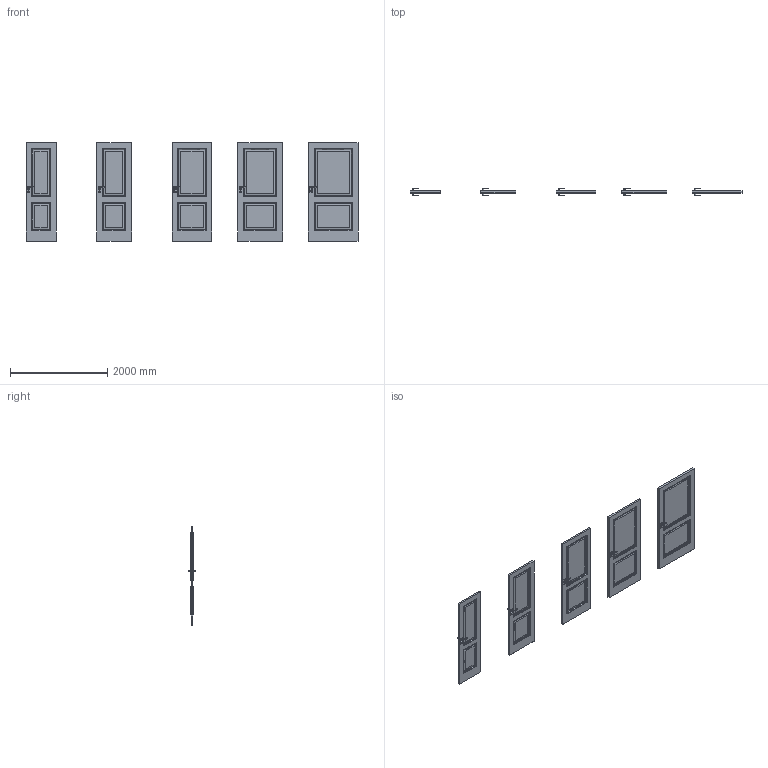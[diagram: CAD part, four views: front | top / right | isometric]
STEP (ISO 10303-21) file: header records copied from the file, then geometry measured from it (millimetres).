
FILE_DESCRIPTION(/* description */ (''),/* implementation_level */ '2;1');
FILE_NAME(/* name */ '049923_A_2-Skrzydło NOVA model 3.1_ polska norma _PN__ bezprzylgowe..stp',/* time_stamp */ '2024-11-05T12:00:45+01:00',/* author */ (''),/* organization */ (''),/* preprocessor_version */ 'ST-DEVELOPER v16',/* originating_system */ 'SIEMENS PLM Software NX 11.0',/* authorisation */ '');
FILE_SCHEMA (('AUTOMOTIVE_DESIGN { 1 0 10303 214 3 1 1 1 }'));
Products named in the file (1): bkni379022B9h0o8
Bounding box: 6818 x 153.13 x 2017 mm (x, y, z)
Volume: 223550646.9 mm3; surface area: 21148143.6 mm2
Topology: 25 solids, 25 shells, 2300 faces, 5581 edges, 3191 vertices
Faces by surface type: plane 1215, bspline 685, cylinder 260, sphere 140
Entity records: 98360 total; most frequent: CARTESIAN_POINT 50229, ORIENTED_EDGE 10882, DIRECTION 7946, EDGE_CURVE 5441, LINE 3354, VECTOR 3354, VERTEX_POINT 3191, EDGE_LOOP 2470
